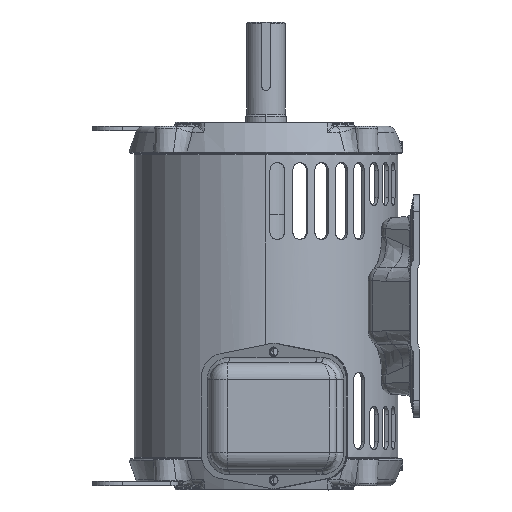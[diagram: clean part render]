
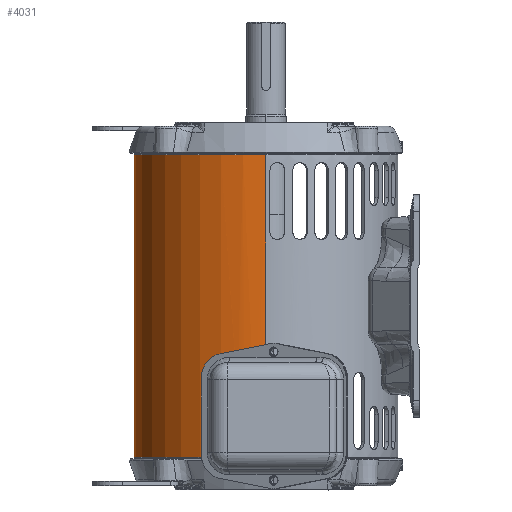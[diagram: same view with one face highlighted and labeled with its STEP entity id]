
A CAD part, left-side view. The second image highlights one B-rep face of the part: STEP entity #4031.
In plain terms, the highlighted cylindrical face has radius 97.815 mm (diameter 195.631 mm), a partial arc.
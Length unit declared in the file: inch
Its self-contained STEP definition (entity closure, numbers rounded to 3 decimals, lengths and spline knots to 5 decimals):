
#2=CARTESIAN_POINT('',(-3.78118,0.73,-2.6595));
#3=CARTESIAN_POINT('',(-3.77863,0.74321,-2.6595));
#4=CARTESIAN_POINT('',(-3.77372,0.76792,-2.65503));
#5=CARTESIAN_POINT('',(-3.76662,0.80193,-2.63562));
#6=CARTESIAN_POINT('',(-3.76119,0.82691,-2.60559));
#7=CARTESIAN_POINT('',(-3.75828,0.83998,-2.56952));
#8=CARTESIAN_POINT('',(-3.75825,0.84009,-2.53089));
#9=CARTESIAN_POINT('',(-3.76117,0.827,-2.49463));
#10=CARTESIAN_POINT('',(-3.76652,0.80242,-2.46479));
#11=CARTESIAN_POINT('',(-3.7737,0.76802,-2.44495));
#12=CARTESIAN_POINT('',(-3.77862,0.74324,-2.4405));
#13=CARTESIAN_POINT('',(-3.78118,0.73,-2.4405));
#15=CARTESIAN_POINT('',(-3.78118,0.73,-2.4405));
#16=CARTESIAN_POINT('',(-3.78372,0.71682,-2.4405));
#17=CARTESIAN_POINT('',(-3.78835,0.69214,-2.44496));
#18=CARTESIAN_POINT('',(-3.79437,0.65823,-2.46426));
#19=CARTESIAN_POINT('',(-3.79861,0.63318,-2.49423));
#20=CARTESIAN_POINT('',(-3.80076,0.62001,-2.53039));
#21=CARTESIAN_POINT('',(-3.80078,0.61991,-2.56921));
#22=CARTESIAN_POINT('',(-3.79862,0.6331,-2.60557));
#23=CARTESIAN_POINT('',(-3.79445,0.65776,-2.63535));
#24=CARTESIAN_POINT('',(-3.78836,0.69208,-2.65507));
#25=CARTESIAN_POINT('',(-3.78373,0.7168,-2.6595));
#26=CARTESIAN_POINT('',(-3.78118,0.73,-2.6595));
#28=CARTESIAN_POINT('',(0.,0.,4.41902));
#29=DIRECTION('',(0.,0.,1.));
#30=DIRECTION('',(1.,0.,0.));
#31=AXIS2_PLACEMENT_3D('',#28,#29,#30);
#33=CARTESIAN_POINT('',(0.,0.,4.41902));
#34=DIRECTION('',(0.,0.,1.));
#35=DIRECTION('',(0.,1.,0.));
#36=AXIS2_PLACEMENT_3D('',#33,#34,#35);
#38=CARTESIAN_POINT('',(-3.83797,0.31658,-2.53443));
#39=CARTESIAN_POINT('',(-3.84073,0.28301,-2.52017));
#40=CARTESIAN_POINT('',(-3.84549,0.21473,-2.49646));
#41=CARTESIAN_POINT('',(-3.84999,0.10782,-2.47477));
#42=CARTESIAN_POINT('',(-3.851,0.03614,-2.47));
#43=CARTESIAN_POINT('',(-3.851,0.,-2.47));
#45=CARTESIAN_POINT('',(-3.83148,0.38721,-2.62066));
#46=CARTESIAN_POINT('',(-3.83162,0.38589,-2.61428));
#47=CARTESIAN_POINT('',(-3.83198,0.38228,-2.60194));
#48=CARTESIAN_POINT('',(-3.83281,0.37392,-2.58439));
#49=CARTESIAN_POINT('',(-3.83387,0.36288,-2.56847));
#50=CARTESIAN_POINT('',(-3.83512,0.34944,-2.55453));
#51=CARTESIAN_POINT('',(-3.83651,0.33391,-2.54292));
#52=CARTESIAN_POINT('',(-3.83747,0.32255,-2.53696));
#53=CARTESIAN_POINT('',(-3.83797,0.31658,-2.53443));
#55=CARTESIAN_POINT('',(-3.79414,0.65934,-2.89279));
#56=CARTESIAN_POINT('',(-3.79703,0.64268,-2.88936));
#57=CARTESIAN_POINT('',(-3.80245,0.6102,-2.88016));
#58=CARTESIAN_POINT('',(-3.80963,0.56354,-2.85929));
#59=CARTESIAN_POINT('',(-3.81574,0.52046,-2.83189));
#60=CARTESIAN_POINT('',(-3.8208,0.48177,-2.7985));
#61=CARTESIAN_POINT('',(-3.82485,0.44833,-2.75984));
#62=CARTESIAN_POINT('',(-3.82796,0.42086,-2.71676));
#63=CARTESIAN_POINT('',(-3.83019,0.3999,-2.67));
#64=CARTESIAN_POINT('',(-3.83114,0.39066,-2.6374));
#65=CARTESIAN_POINT('',(-3.83148,0.38721,-2.62066));
#67=CARTESIAN_POINT('',(-3.77814,0.74557,-2.96342));
#68=CARTESIAN_POINT('',(-3.77864,0.74302,-2.9574));
#69=CARTESIAN_POINT('',(-3.77982,0.73701,-2.94596));
#70=CARTESIAN_POINT('',(-3.78209,0.72532,-2.93038));
#71=CARTESIAN_POINT('',(-3.78474,0.71133,-2.91697));
#72=CARTESIAN_POINT('',(-3.7877,0.69544,-2.90599));
#73=CARTESIAN_POINT('',(-3.79087,0.67798,-2.89769));
#74=CARTESIAN_POINT('',(-3.79303,0.66569,-2.8941));
#75=CARTESIAN_POINT('',(-3.79414,0.65934,-2.89279));
#77=CARTESIAN_POINT('',(-3.851,0.,-4.09));
#78=CARTESIAN_POINT('',(-3.851,0.02797,-4.09));
#79=CARTESIAN_POINT('',(-3.85039,0.08376,-4.08713));
#80=CARTESIAN_POINT('',(-3.84765,0.16775,-4.07396));
#81=CARTESIAN_POINT('',(-3.84319,0.24951,-4.05214));
#82=CARTESIAN_POINT('',(-3.83731,0.32734,-4.02244));
#83=CARTESIAN_POINT('',(-3.83027,0.40136,-3.98525));
#84=CARTESIAN_POINT('',(-3.82182,0.47515,-3.93811));
#85=CARTESIAN_POINT('',(-3.81181,0.54977,-3.87771));
#86=CARTESIAN_POINT('',(-3.80018,0.62514,-3.79949));
#87=CARTESIAN_POINT('',(-3.78739,0.69822,-3.69755));
#88=CARTESIAN_POINT('',(-3.77546,0.75966,-3.57354));
#89=CARTESIAN_POINT('',(-3.76661,0.80196,-3.42575));
#90=CARTESIAN_POINT('',(-3.7637,0.81531,-3.26631));
#91=CARTESIAN_POINT('',(-3.76787,0.79607,-3.10517));
#92=CARTESIAN_POINT('',(-3.77427,0.76519,-3.00962));
#93=CARTESIAN_POINT('',(-3.77814,0.74557,-2.96342));
#95=CARTESIAN_POINT('',(0.,0.,-4.42302));
#96=DIRECTION('',(0.,0.,1.));
#97=DIRECTION('',(0.,1.,0.));
#98=AXIS2_PLACEMENT_3D('',#95,#96,#97);
#100=CARTESIAN_POINT('',(0.,0.,-4.42302));
#101=DIRECTION('',(0.,0.,1.));
#102=DIRECTION('',(1.,0.,0.));
#103=AXIS2_PLACEMENT_3D('',#100,#101,#102);
#105=DIRECTION('',(0.,0.,1.));
#106=VECTOR('',#105,8.84203);
#107=CARTESIAN_POINT('',(3.851,0.,-4.42302));
#108=LINE('',#107,#106);
#1511=DIRECTION('',(0.,0.,1.));
#1512=VECTOR('',#1511,0.33302);
#1513=CARTESIAN_POINT('',(-3.851,0.,-4.42302));
#1514=LINE('',#1513,#1512);
#1572=DIRECTION('',(0.,0.,1.));
#1573=VECTOR('',#1572,6.88902);
#1574=CARTESIAN_POINT('',(-3.851,0.,-2.47));
#1575=LINE('',#1574,#1573);
#3450=VERTEX_POINT('',#2);
#3451=VERTEX_POINT('',#13);
#3478=VERTEX_POINT('',#45);
#3479=VERTEX_POINT('',#53);
#3480=VERTEX_POINT('',#43);
#3481=VERTEX_POINT('',#77);
#3482=VERTEX_POINT('',#93);
#3483=VERTEX_POINT('',#75);
#3970=CARTESIAN_POINT('',(3.851,0.,4.41902));
#3971=CARTESIAN_POINT('',(0.,3.851,4.41902));
#3972=VERTEX_POINT('',#3970);
#3973=VERTEX_POINT('',#3971);
#3974=CARTESIAN_POINT('',(-3.851,0.,4.41902));
#3975=VERTEX_POINT('',#3974);
#3976=CARTESIAN_POINT('',(3.851,0.,-4.42302));
#3977=CARTESIAN_POINT('',(0.,3.851,-4.42302));
#3978=VERTEX_POINT('',#3976);
#3979=VERTEX_POINT('',#3977);
#3980=CARTESIAN_POINT('',(-3.851,0.,-4.42302));
#3981=VERTEX_POINT('',#3980);
#3994=CARTESIAN_POINT('',(0.,0.,-4.69));
#3995=DIRECTION('',(0.,0.,1.));
#3996=DIRECTION('',(1.,0.,0.));
#3997=AXIS2_PLACEMENT_3D('',#3994,#3995,#3996);
#3998=CYLINDRICAL_SURFACE('',#3997,3.851);
#4000=ORIENTED_EDGE('',*,*,#3999,.T.);
#4002=ORIENTED_EDGE('',*,*,#4001,.T.);
#4004=ORIENTED_EDGE('',*,*,#4003,.F.);
#4006=ORIENTED_EDGE('',*,*,#4005,.F.);
#4008=ORIENTED_EDGE('',*,*,#4007,.F.);
#4010=ORIENTED_EDGE('',*,*,#4009,.F.);
#4012=ORIENTED_EDGE('',*,*,#4011,.F.);
#4014=ORIENTED_EDGE('',*,*,#4013,.F.);
#4016=ORIENTED_EDGE('',*,*,#4015,.F.);
#4018=ORIENTED_EDGE('',*,*,#4017,.F.);
#4020=ORIENTED_EDGE('',*,*,#4019,.F.);
#4022=ORIENTED_EDGE('',*,*,#4021,.T.);
#4023=EDGE_LOOP('',(#4000,#4002,#4004,#4006,#4008,#4010,#4012,#4014,#4016,#4018,
#4020,#4022));
#4024=FACE_OUTER_BOUND('',#4023,.F.);
#4026=ORIENTED_EDGE('',*,*,#4025,.F.);
#4028=ORIENTED_EDGE('',*,*,#4027,.F.);
#4029=EDGE_LOOP('',(#4026,#4028));
#4030=FACE_BOUND('',#4029,.F.);
#4031=ADVANCED_FACE('',(#4024,#4030),#3998,.T.);
#14=B_SPLINE_CURVE_WITH_KNOTS('',3,(#2,#3,#4,#5,#6,#7,#8,#9,#10,#11,#12,#13),
.UNSPECIFIED.,.F.,.F.,(4,1,1,1,1,1,1,1,1,4),(0.,0.11111,
0.22222,0.33333,0.44444,0.55556,
0.66667,0.77778,0.88889,1.),.UNSPECIFIED.);
#27=B_SPLINE_CURVE_WITH_KNOTS('',3,(#15,#16,#17,#18,#19,#20,#21,#22,#23,#24,#25,
#26),.UNSPECIFIED.,.F.,.F.,(4,1,1,1,1,1,1,1,1,4),(0.,0.11111,
0.22222,0.33333,0.44444,0.55556,
0.66667,0.77778,0.88889,1.),.UNSPECIFIED.);
#32=CIRCLE('',#31,3.851);
#37=CIRCLE('',#36,3.851);
#44=B_SPLINE_CURVE_WITH_KNOTS('',3,(#38,#39,#40,#41,#42,#43),.UNSPECIFIED.,.F.,
.F.,(4,1,1,4),(0.,0.33333,0.66667,1.),.UNSPECIFIED.);
#54=B_SPLINE_CURVE_WITH_KNOTS('',3,(#45,#46,#47,#48,#49,#50,#51,#52,#53),
.UNSPECIFIED.,.F.,.F.,(4,1,1,1,1,1,4),(0.,0.16667,0.33333,
0.5,0.66667,0.83333,1.),.UNSPECIFIED.);
#66=B_SPLINE_CURVE_WITH_KNOTS('',3,(#55,#56,#57,#58,#59,#60,#61,#62,#63,#64,
#65),.UNSPECIFIED.,.F.,.F.,(4,1,1,1,1,1,1,1,4),(0.,0.125,0.25,0.375,
0.5,0.625,0.75,0.875,1.),.UNSPECIFIED.);
#76=B_SPLINE_CURVE_WITH_KNOTS('',3,(#67,#68,#69,#70,#71,#72,#73,#74,#75),
.UNSPECIFIED.,.F.,.F.,(4,1,1,1,1,1,4),(0.,0.16667,0.33333,
0.5,0.66667,0.83333,1.),.UNSPECIFIED.);
#94=B_SPLINE_CURVE_WITH_KNOTS('',3,(#77,#78,#79,#80,#81,#82,#83,#84,#85,#86,#87,
#88,#89,#90,#91,#92,#93),.UNSPECIFIED.,.F.,.F.,(4,1,1,1,1,1,1,1,1,1,1,1,1,1,4),(
0.,0.07143,0.14286,0.21429,0.28571,
0.35714,0.42857,0.5,0.57143,0.64286,
0.71429,0.78571,0.85714,0.92857,1.),
.UNSPECIFIED.);
#99=CIRCLE('',#98,3.851);
#104=CIRCLE('',#103,3.851);
#3999=EDGE_CURVE('',#3972,#3973,#32,.T.);
#4001=EDGE_CURVE('',#3973,#3975,#37,.T.);
#4003=EDGE_CURVE('',#3480,#3975,#1575,.T.);
#4005=EDGE_CURVE('',#3479,#3480,#44,.T.);
#4007=EDGE_CURVE('',#3478,#3479,#54,.T.);
#4009=EDGE_CURVE('',#3483,#3478,#66,.T.);
#4011=EDGE_CURVE('',#3482,#3483,#76,.T.);
#4013=EDGE_CURVE('',#3481,#3482,#94,.T.);
#4015=EDGE_CURVE('',#3981,#3481,#1514,.T.);
#4017=EDGE_CURVE('',#3979,#3981,#99,.T.);
#4019=EDGE_CURVE('',#3978,#3979,#104,.T.);
#4021=EDGE_CURVE('',#3978,#3972,#108,.T.);
#4025=EDGE_CURVE('',#3450,#3451,#14,.T.);
#4027=EDGE_CURVE('',#3451,#3450,#27,.T.);
